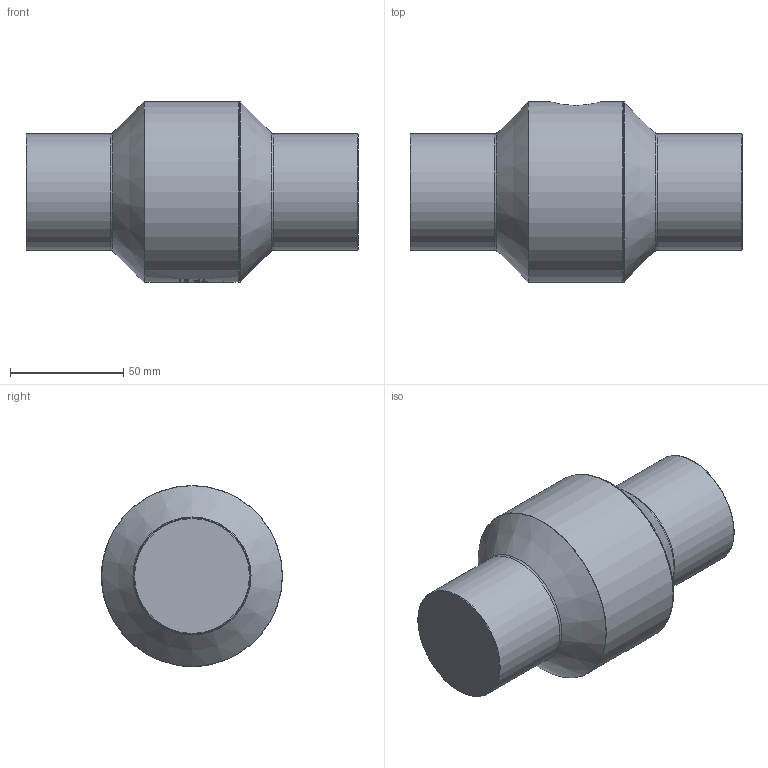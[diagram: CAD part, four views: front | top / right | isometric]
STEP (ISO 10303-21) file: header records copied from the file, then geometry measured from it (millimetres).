
FILE_DESCRIPTION (( 'STEP AP214' ), '1' );
FILE_NAME ('STEP - TP_51.STEP', '2023-12-20T14:49:58', ( '' ), ( '' ), 'SwSTEP 2.0', 'SolidWorks 2021', '' );
FILE_SCHEMA (( 'AUTOMOTIVE_DESIGN' ));
Length unit declared in the file: millimetre
Products named in the file (1): STEP - TP_51
Bounding box: 146.75 x 80 x 80 mm (x, y, z)
Volume: 465920.8 mm3; surface area: 36087.3 mm2
Topology: 1 solids, 2 shells, 601 faces, 1602 edges, 1067 vertices
Faces by surface type: bspline 276, plane 248, cylinder 67, torus 7, cone 3
Full cylindrical faces by diameter (mm): 23 x1, 51.4 x2, 80 x1
Entity records: 49012 total; most frequent: CARTESIAN_POINT 29975, ORIENTED_EDGE 3160, EDGE_CURVE 1580, DIRECTION 1531, VERTEX_POINT 1059, B_SPLINE_CURVE_WITH_KNOTS 929, EDGE_LOOP 677, FACE_OUTER_BOUND 612
